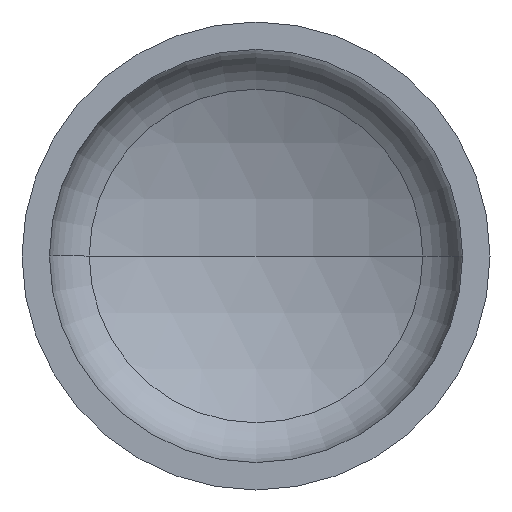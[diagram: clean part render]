
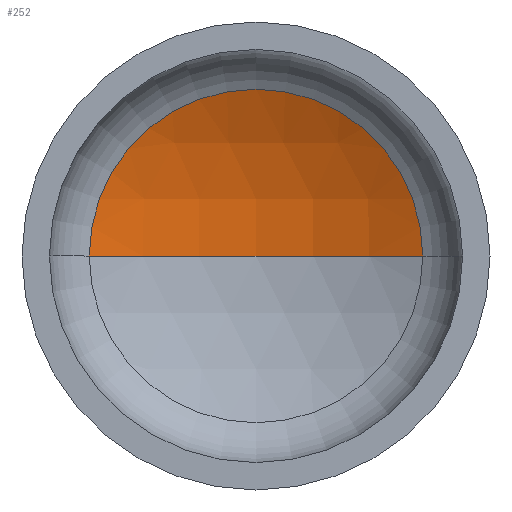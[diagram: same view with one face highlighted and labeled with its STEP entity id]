
A CAD part, front view. The second image highlights one B-rep face of the part: STEP entity #252.
In plain terms, the highlighted spherical face has radius 1200 mm.
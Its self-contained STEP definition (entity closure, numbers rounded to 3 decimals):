
#5 = VERTEX_POINT ( 'NONE', #266 ) ;
#10 = EDGE_LOOP ( 'NONE', ( #15, #97, #119 ) ) ;
#15 = ORIENTED_EDGE ( 'NONE', *, *, #102, .F. ) ;
#17 = AXIS2_PLACEMENT_3D ( 'NONE', #75, #253, #59 ) ;
#35 = AXIS2_PLACEMENT_3D ( 'NONE', #317, #275, #407 ) ;
#37 = AXIS2_PLACEMENT_3D ( 'NONE', #255, #366, #53 ) ;
#42 = AXIS2_PLACEMENT_3D ( 'NONE', #209, #345, #208 ) ;
#53 = DIRECTION ( 'NONE',  ( -1., 0., 0. ) ) ;
#55 = VERTEX_POINT ( 'NONE', #364 ) ;
#59 = DIRECTION ( 'NONE',  ( -1., 0., 0. ) ) ;
#75 = CARTESIAN_POINT ( 'NONE',  ( 0., -768.491, 0. ) ) ;
#90 = EDGE_CURVE ( 'NONE', #125, #5, #406, .T. ) ;
#92 = EDGE_CURVE ( 'NONE', #55, #125, #282, .T. ) ;
#97 = ORIENTED_EDGE ( 'NONE', *, *, #92, .T. ) ;
#102 = EDGE_CURVE ( 'NONE', #55, #5, #226, .T. ) ;
#119 = ORIENTED_EDGE ( 'NONE', *, *, #90, .T. ) ;
#125 = VERTEX_POINT ( 'NONE', #369 ) ;
#156 = FACE_OUTER_BOUND ( 'NONE', #10, .T. ) ;
#208 = DIRECTION ( 'NONE',  ( 1., 0., 0. ) ) ;
#209 = CARTESIAN_POINT ( 'NONE',  ( 0., 305.931, 0. ) ) ;
#226 = CIRCLE ( 'NONE', #35, 1200. ) ;
#252 = ADVANCED_FACE ( 'NONE', ( #156 ), #334, .F. ) ;
#253 = DIRECTION ( 'NONE',  ( 0., 0., -1. ) ) ;
#255 = CARTESIAN_POINT ( 'NONE',  ( 0., -768.491, 0. ) ) ;
#266 = CARTESIAN_POINT ( 'NONE',  ( -534.433, 305.931, 0. ) ) ;
#275 = DIRECTION ( 'NONE',  ( 0., 0., 1. ) ) ;
#282 = CIRCLE ( 'NONE', #37, 1200. ) ;
#317 = CARTESIAN_POINT ( 'NONE',  ( 0., -768.491, 0. ) ) ;
#334 = SPHERICAL_SURFACE ( 'NONE', #17, 1200. ) ;
#345 = DIRECTION ( 'NONE',  ( 0., -1., 0. ) ) ;
#364 = CARTESIAN_POINT ( 'NONE',  ( 0., 431.509, 0. ) ) ;
#366 = DIRECTION ( 'NONE',  ( 0., 0., -1. ) ) ;
#369 = CARTESIAN_POINT ( 'NONE',  ( 534.433, 305.931, 0. ) ) ;
#406 = CIRCLE ( 'NONE', #42, 534.433 ) ;
#407 = DIRECTION ( 'NONE',  ( 1., 0., 0. ) ) ;
